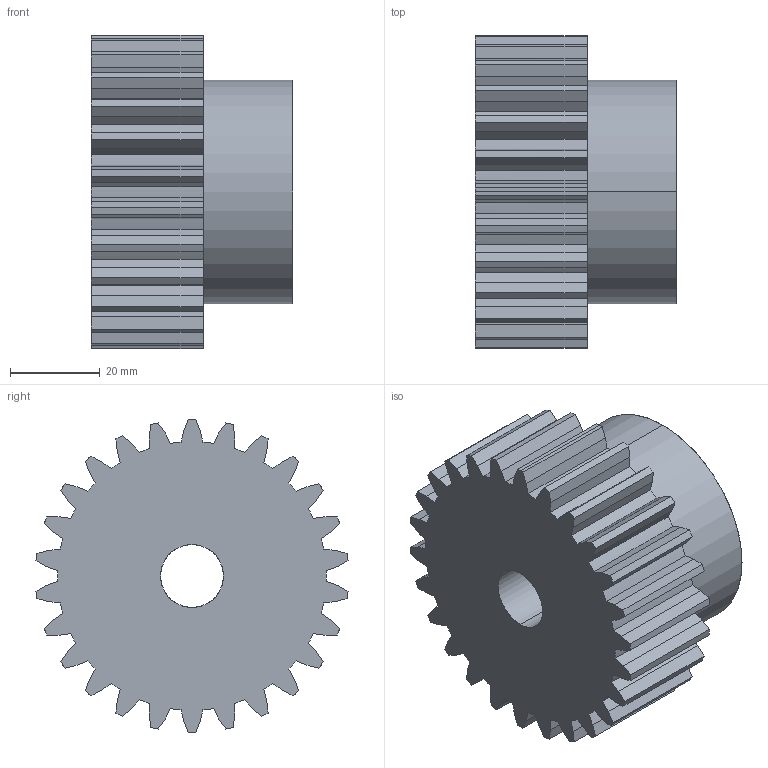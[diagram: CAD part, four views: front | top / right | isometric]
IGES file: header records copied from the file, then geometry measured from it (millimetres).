
Start section: SolidWorks IGES file using analytic representation for surfaces
Global section: file name: C:\Users\Honza\Desktop\Matis (Hotove)\Èelní ozubená kola\PM\MODUL 2,5\PM 29026.IGS; native system: SolidWorks 2010; preprocessor: SolidWorks 2010; author: Honza; date: 130925.145243; units: millimetre
Bounding box: 45 x 69.67 x 70 mm (x, y, z)
Surface area: 20961.4 mm2 (no closed solid volume)
Topology: 0 solids, 0 shells, 164 faces, 1178 edges, 1178 vertices
Faces by surface type: bspline 107, revolution 57
